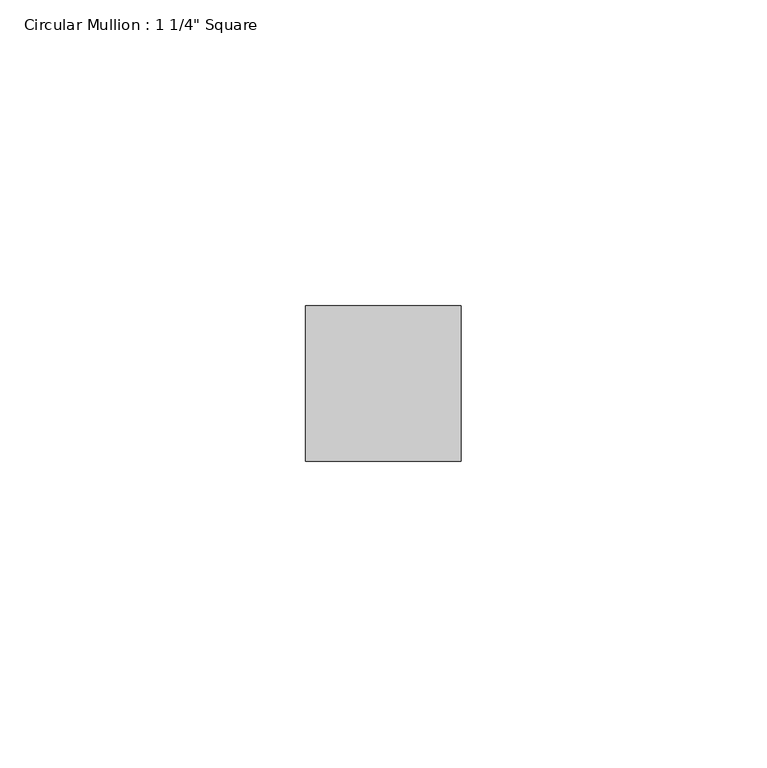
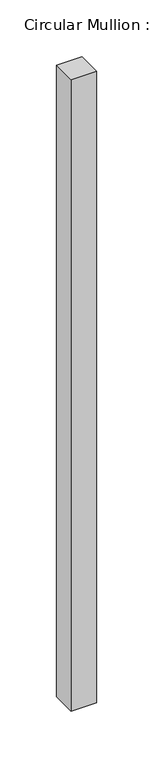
"""IFC4 building model written with IfcOpenShell, lengths in millimetres: member geometry."""

from ifc_helpers import new_model, si_unit, frame, origin, place, context, project, spatial, polyline, outline, extrude, source, transform, mapped, element, save


def member_2f6810a2(model_context):
    return source(origin(), model_context, "Body", "SweptSolid", [
        extrude(outline(polyline([(0.0, 12.7), (0.0, -12.7), (-25.4, -12.7), (-25.4, 12.7), (0.0, 12.7)])), frame((0.0, 0.0, -676.4411435), z_axis=(0.0, 0.0, 1.0), x_axis=(1.0, 0.0, 0.0)), (0.0, 0.0, 1.0), 676.4411435),
    ])


if __name__ == "__main__":
    model = new_model("IFC4")
    model_context = context("Model", 3, world=origin())
    ifc_project = project(units=[si_unit("LENGTHUNIT", "METRE", prefix="MILLI")], contexts=[model_context])
    site = spatial("IfcSite", under=ifc_project)
    building = spatial("IfcBuilding", under=site)
    placement = place(None, origin())
    member_shape = member_2f6810a2(model_context)
    element("IfcMember", 1, ObjectType="Circular Mullion : 1 1/4\" Square", at=placement, inside=building, context=model_context, shape_type="MappedRepresentation", body=[
        mapped(member_shape, transform((0.0, 0.0, 0.0), x_axis=(1.0, 0.0, 0.0), y_axis=(0.0, 1.0, 0.0), z_axis=(0.0, 0.0, 1.0))),
    ])
    save(model, "model.ifc")
